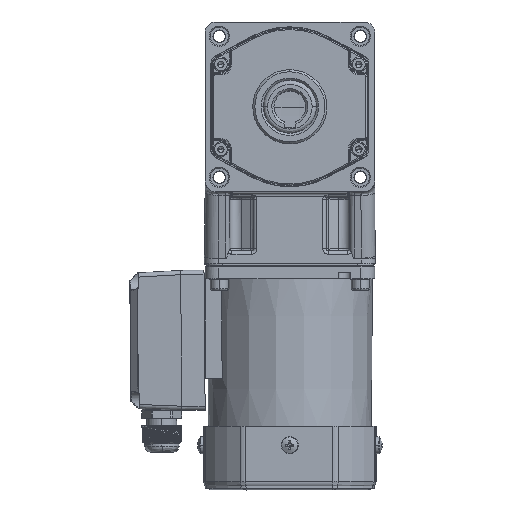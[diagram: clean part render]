
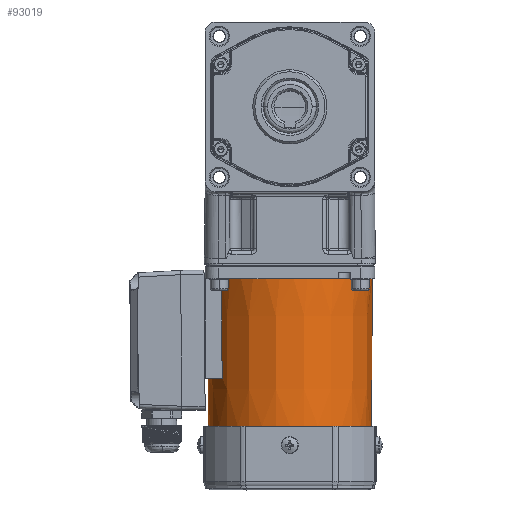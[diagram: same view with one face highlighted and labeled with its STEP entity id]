
A CAD part, top view. The second image highlights one B-rep face of the part: STEP entity #93019.
In plain terms, the highlighted conical face has half-angle 0.47 degrees and reference radius 38.947 mm.
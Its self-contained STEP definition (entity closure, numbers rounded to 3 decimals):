
#383 = EDGE_CURVE ( 'NONE', #92244, #36444, #53552, .T. ) ;
#920 = CARTESIAN_POINT ( 'NONE',  ( 0., 0., 38.947 ) ) ;
#2583 = CARTESIAN_POINT ( 'NONE',  ( -21.863, 15.712, 32.076 ) ) ;
#3799 = EDGE_CURVE ( 'NONE', #91655, #70731, #6812, .T. ) ;
#5077 = EDGE_CURVE ( 'NONE', #70731, #50182, #93444, .T. ) ;
#6114 = VECTOR ( 'NONE', #58322, 1000. ) ;
#6812 = LINE ( 'NONE', #58027, #6114 ) ;
#7419 = EDGE_CURVE ( 'NONE', #13570, #91655, #62865, .T. ) ;
#10740 = DIRECTION ( 'NONE',  ( 0., 0., -1. ) ) ;
#10834 = DIRECTION ( 'NONE',  ( 0., 1., 0. ) ) ;
#10926 = CARTESIAN_POINT ( 'NONE',  ( 0., 47., 0. ) ) ;
#12815 = DIRECTION ( 'NONE',  ( 0., 0., -1. ) ) ;
#12835 = DIRECTION ( 'NONE',  ( 0., -1., 0. ) ) ;
#13026 = CARTESIAN_POINT ( 'NONE',  ( 0., 69.5, 0. ) ) ;
#13570 = VERTEX_POINT ( 'NONE', #73329 ) ;
#13638 = AXIS2_PLACEMENT_3D ( 'NONE', #13026, #12835, #12815 ) ;
#13944 = AXIS2_PLACEMENT_3D ( 'NONE', #10926, #10834, #10740 ) ;
#18604 = ORIENTED_EDGE ( 'NONE', *, *, #61038, .T. ) ;
#21304 = AXIS2_PLACEMENT_3D ( 'NONE', #58430, #80385, #50877 ) ;
#33176 = CARTESIAN_POINT ( 'NONE',  ( -21.59, 47., 31.951 ) ) ;
#36444 = VERTEX_POINT ( 'NONE', #81264 ) ;
#46715 = CARTESIAN_POINT ( 'NONE',  ( 0., 0., -38.947 ) ) ;
#47418 = CARTESIAN_POINT ( 'NONE',  ( -21.59, 47., 31.951 ) ) ;
#48556 = CONICAL_SURFACE ( 'NONE', #21304, 38.947, 0.008 ) ;
#49184 = ORIENTED_EDGE ( 'NONE', *, *, #383, .T. ) ;
#50182 = VERTEX_POINT ( 'NONE', #71505 ) ;
#50877 = DIRECTION ( 'NONE',  ( 0., 0., -1. ) ) ;
#53212 = CARTESIAN_POINT ( 'NONE',  ( 0., 69.5, -38.377 ) ) ;
#53552 = CIRCLE ( 'NONE', #13944, 38.561 ) ;
#53797 = DIRECTION ( 'NONE',  ( 0., -1., 0.008 ) ) ;
#54298 = ORIENTED_EDGE ( 'NONE', *, *, #5077, .T. ) ;
#55462 = CARTESIAN_POINT ( 'NONE',  ( -22., 0., 32.138 ) ) ;
#58027 = CARTESIAN_POINT ( 'NONE',  ( 0., 0., -38.947 ) ) ;
#58322 = DIRECTION ( 'NONE',  ( 0., -1., -0.008 ) ) ;
#58430 = CARTESIAN_POINT ( 'NONE',  ( 0., 0., 0. ) ) ;
#59484 =( BOUNDED_CURVE ( )  B_SPLINE_CURVE ( 3, ( #55462, #2583, #77772, #33176 ),
 .UNSPECIFIED., .F., .F. ) 
 B_SPLINE_CURVE_WITH_KNOTS ( ( 4, 4 ),
 ( 2.498, 2.502 ),
 .UNSPECIFIED. ) 
 CURVE ( )  GEOMETRIC_REPRESENTATION_ITEM ( )  RATIONAL_B_SPLINE_CURVE ( ( 1., 1., 1., 1. ) ) 
 REPRESENTATION_ITEM ( '' )  );
#60291 = FACE_OUTER_BOUND ( 'NONE', #92313, .T. ) ;
#61038 = EDGE_CURVE ( 'NONE', #50182, #92244, #59484, .T. ) ;
#62647 = ORIENTED_EDGE ( 'NONE', *, *, #3799, .T. ) ;
#62865 = CIRCLE ( 'NONE', #13638, 38.377 ) ;
#67154 = ORIENTED_EDGE ( 'NONE', *, *, #95558, .F. ) ;
#68831 = ORIENTED_EDGE ( 'NONE', *, *, #7419, .T. ) ;
#68894 = VECTOR ( 'NONE', #53797, 1000. ) ;
#70731 = VERTEX_POINT ( 'NONE', #46715 ) ;
#71109 = LINE ( 'NONE', #920, #68894 ) ;
#71505 = CARTESIAN_POINT ( 'NONE',  ( -22., 0., 32.138 ) ) ;
#72031 = AXIS2_PLACEMENT_3D ( 'NONE', #73738, #73651, #73625 ) ;
#73329 = CARTESIAN_POINT ( 'NONE',  ( 0., 69.5, 38.377 ) ) ;
#73625 = DIRECTION ( 'NONE',  ( 0., 0., -1. ) ) ;
#73651 = DIRECTION ( 'NONE',  ( 0., 1., 0. ) ) ;
#73738 = CARTESIAN_POINT ( 'NONE',  ( 0., 0., 0. ) ) ;
#77772 = CARTESIAN_POINT ( 'NONE',  ( -21.726, 31.379, 32.013 ) ) ;
#80385 = DIRECTION ( 'NONE',  ( 0., -1., 0. ) ) ;
#81264 = CARTESIAN_POINT ( 'NONE',  ( 0., 47., 38.561 ) ) ;
#91655 = VERTEX_POINT ( 'NONE', #53212 ) ;
#92244 = VERTEX_POINT ( 'NONE', #47418 ) ;
#92313 = EDGE_LOOP ( 'NONE', ( #67154, #68831, #62647, #54298, #18604, #49184 ) ) ;
#93019 = ADVANCED_FACE ( 'NONE', ( #60291 ), #48556, .T. ) ;
#93444 = CIRCLE ( 'NONE', #72031, 38.947 ) ;
#95558 = EDGE_CURVE ( 'NONE', #13570, #36444, #71109, .T. ) ;
